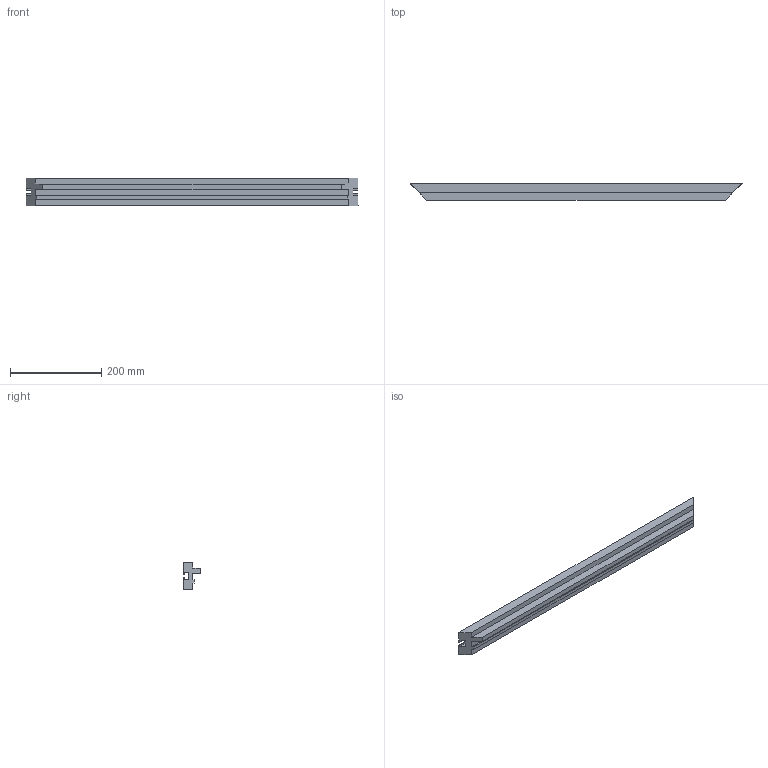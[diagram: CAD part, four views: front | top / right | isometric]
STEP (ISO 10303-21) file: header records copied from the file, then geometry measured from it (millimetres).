
FILE_DESCRIPTION(/* description */ (''),/* implementation_level */ '2;1');
FILE_NAME(/* name */ 'Pos141-PV-SCHERM PROFIEL 60X37-Aluminium-1st',/* time_stamp */ '2024-08-06T11:49:44+02:00',/* author */ (''),/* organization */ (''),/* preprocessor_version */ 'ST-DEVELOPER v16.5',/* originating_system */ 'HiCAD 2024 2901.2 Build 361',/* authorisation */ '');
FILE_SCHEMA (('AUTOMOTIVE_DESIGN { 1 0 10303 214 1 1 1 1 }'));
Length unit declared in the file: millimetre
Products named in the file (1): Pos141-PV-SCHERM PROFIEL 60X37-Aluminium-1st
Bounding box: 729 x 37 x 60 mm (x, y, z)
Volume: 878347.4 mm3; surface area: 172035 mm2
Topology: 1 solids, 1 shells, 33 faces, 93 edges, 62 vertices
Faces by surface type: plane 29, cylinder 4
Entity records: 2003 total; most frequent: CARTESIAN_POINT 188, PRESENTATION_STYLE_ASSIGNMENT 187, COLOUR_RGB 187, DRAUGHTING_PRE_DEFINED_CURVE_FONT 186, CURVE_STYLE 186, OVER_RIDING_STYLED_ITEM 186, ORIENTED_EDGE 186, DIRECTION 167
